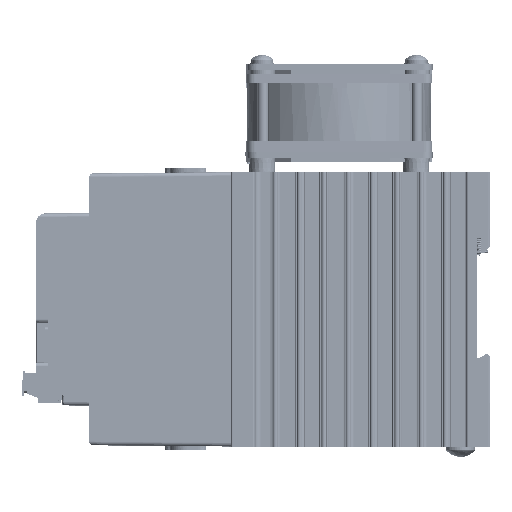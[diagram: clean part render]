
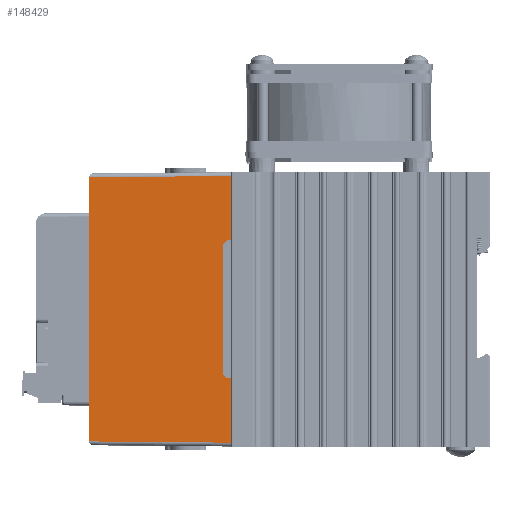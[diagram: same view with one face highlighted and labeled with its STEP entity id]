
A CAD part, left-side view. The second image highlights one B-rep face of the part: STEP entity #148429.
In plain terms, the highlighted planar face has unit normal (-1, 0.009, 0) as drawn and (1, 0, 0.009) by its records, which use the part's own axes.
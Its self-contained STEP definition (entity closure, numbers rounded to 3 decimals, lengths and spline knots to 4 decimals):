
#15151=FACE_OUTER_BOUND('',#23178,.T.);
#23178=EDGE_LOOP('',(#128911,#128912,#128913,#128914,#128915,#128916,#128917,
#128918,#128919,#128920));
#39065=LINE('',#250808,#55868);
#39195=LINE('',#251593,#55998);
#39201=LINE('',#251605,#56004);
#39205=LINE('',#251611,#56008);
#39207=LINE('',#251615,#56010);
#39209=LINE('',#251619,#56012);
#39210=LINE('',#251622,#56013);
#39555=LINE('',#252380,#56358);
#39557=LINE('',#252386,#56360);
#39558=LINE('',#252387,#56361);
#55868=VECTOR('',#192654,0.3937);
#55998=VECTOR('',#193030,0.3937);
#56004=VECTOR('',#193040,0.3937);
#56008=VECTOR('',#193048,0.3937);
#56010=VECTOR('',#193052,0.3937);
#56012=VECTOR('',#193056,0.3937);
#56013=VECTOR('',#193059,0.3937);
#56358=VECTOR('',#193784,0.3937);
#56360=VECTOR('',#193792,0.3937);
#56361=VECTOR('',#193793,0.3937);
#69727=VERTEX_POINT('',#250805);
#69728=VERTEX_POINT('',#250807);
#69831=VERTEX_POINT('',#251590);
#69832=VERTEX_POINT('',#251592);
#69835=VERTEX_POINT('',#251602);
#69836=VERTEX_POINT('',#251604);
#69837=VERTEX_POINT('',#251613);
#69838=VERTEX_POINT('',#251617);
#69839=VERTEX_POINT('',#251621);
#70039=VERTEX_POINT('',#252385);
#89533=EDGE_CURVE('',#69728,#69727,#39065,.T.);
#89721=EDGE_CURVE('',#69832,#69831,#39195,.T.);
#89727=EDGE_CURVE('',#69836,#69835,#39201,.T.);
#89731=EDGE_CURVE('',#69831,#69836,#39205,.T.);
#89733=EDGE_CURVE('',#69835,#69837,#39207,.T.);
#89735=EDGE_CURVE('',#69837,#69838,#39209,.T.);
#89736=EDGE_CURVE('',#69839,#69832,#39210,.T.);
#90102=EDGE_CURVE('',#69839,#69727,#39555,.T.);
#90105=EDGE_CURVE('',#69838,#70039,#39557,.T.);
#90106=EDGE_CURVE('',#69728,#70039,#39558,.T.);
#128911=ORIENTED_EDGE('',*,*,#89735,.T.);
#128912=ORIENTED_EDGE('',*,*,#90105,.T.);
#128913=ORIENTED_EDGE('',*,*,#90106,.F.);
#128914=ORIENTED_EDGE('',*,*,#89533,.T.);
#128915=ORIENTED_EDGE('',*,*,#90102,.F.);
#128916=ORIENTED_EDGE('',*,*,#89736,.T.);
#128917=ORIENTED_EDGE('',*,*,#89721,.T.);
#128918=ORIENTED_EDGE('',*,*,#89731,.T.);
#128919=ORIENTED_EDGE('',*,*,#89727,.T.);
#128920=ORIENTED_EDGE('',*,*,#89733,.T.);
#141440=PLANE('',#159158);
#148429=ADVANCED_FACE('',(#15151),#141440,.T.);
#159158=AXIS2_PLACEMENT_3D('',#252384,#193790,#193791);
#192654=DIRECTION('',(0.,-1.,0.));
#193030=DIRECTION('',(-0.009,0.009,1.));
#193040=DIRECTION('',(0.,1.,0.));
#193048=DIRECTION('',(-0.006,0.71,0.704));
#193052=DIRECTION('',(0.006,0.71,-0.704));
#193056=DIRECTION('',(0.009,0.009,-1.));
#193059=DIRECTION('',(0.,1.,0.));
#193784=DIRECTION('',(-0.009,0.009,1.));
#193790=DIRECTION('center_axis',(1.,0.,
0.009));
#193791=DIRECTION('ref_axis',(0.,1.,0.));
#193792=DIRECTION('',(0.,1.,0.));
#193793=DIRECTION('',(0.009,0.009,-1.));
#250805=CARTESIAN_POINT('',(1.3842,0.0658,1.811));
#250807=CARTESIAN_POINT('',(1.3842,3.4342,1.811));
#250808=CARTESIAN_POINT('',(1.3842,0.,1.811));
#251590=CARTESIAN_POINT('',(1.3995,0.8705,0.0521));
#251592=CARTESIAN_POINT('',(1.4,0.87,0.));
#251593=CARTESIAN_POINT('',(1.3996,0.8704,0.0436));
#251602=CARTESIAN_POINT('',(1.3991,2.5762,0.105));
#251604=CARTESIAN_POINT('',(1.3991,0.9238,0.105));
#251605=CARTESIAN_POINT('',(1.3991,3.0381,0.105));
#251611=CARTESIAN_POINT('',(1.3937,1.5503,0.726));
#251613=CARTESIAN_POINT('',(1.3995,2.6295,0.0521));
#251615=CARTESIAN_POINT('',(1.4015,2.859,-0.1754));
#251617=CARTESIAN_POINT('',(1.4,2.63,0.));
#251619=CARTESIAN_POINT('',(1.4,2.63,0.0023));
#251621=CARTESIAN_POINT('',(1.4,0.05,0.));
#251622=CARTESIAN_POINT('',(1.4,0.,0.));
#252380=CARTESIAN_POINT('',(1.3999,0.0501,0.0148));
#252384=CARTESIAN_POINT('Origin',(1.4,3.5,0.));
#252385=CARTESIAN_POINT('',(1.4,3.45,0.));
#252386=CARTESIAN_POINT('',(1.4,0.,0.));
#252387=CARTESIAN_POINT('',(1.4,3.45,0.0057));
